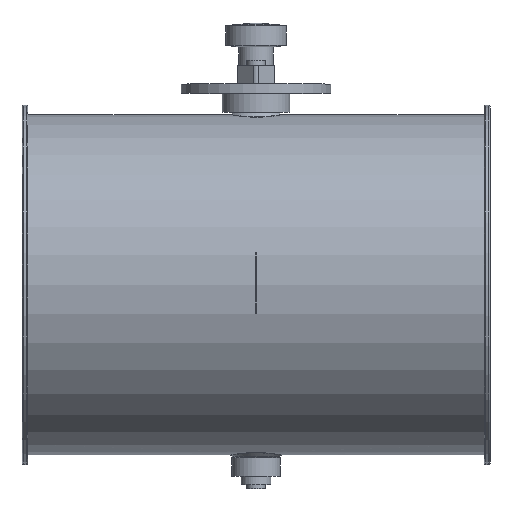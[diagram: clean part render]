
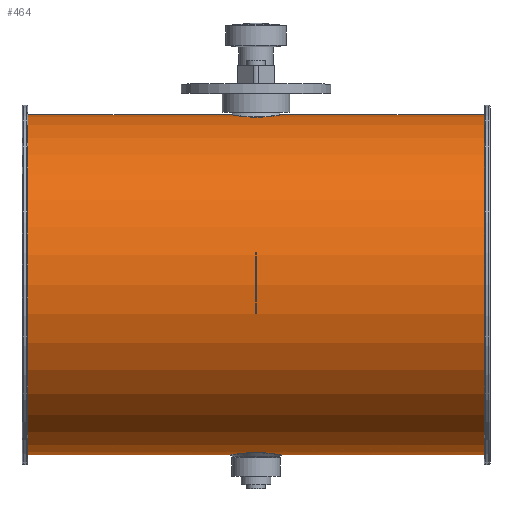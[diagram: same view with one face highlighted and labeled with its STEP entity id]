
A CAD part, top view. The second image highlights one B-rep face of the part: STEP entity #464.
In plain terms, the highlighted cylindrical face has radius 90.8 mm (diameter 181.6 mm), a full revolution.
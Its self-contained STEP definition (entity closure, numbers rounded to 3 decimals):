
#197=B_SPLINE_CURVE_WITH_KNOTS('',3,(#2054,#2055,#2056,#2057,#2058,#2059,
#2060,#2061,#2062,#2063,#2064,#2065,#2066,#2067,#2068,#2069,#2070,#2071,
#2072,#2073,#2074,#2075),.UNSPECIFIED.,.T.,.F.,(2,2,2,2,2,2,2,2,2,2,2,2,
2),(-0.063,0.,0.125,0.25,0.375,0.437,
0.5,0.625,0.75,0.875,
0.938,1.,1.125),.UNSPECIFIED.);
#198=B_SPLINE_CURVE_WITH_KNOTS('',3,(#2077,#2078,#2079,#2080,#2081,#2082,
#2083,#2084,#2085,#2086,#2087,#2088,#2089,#2090,#2091,#2092,#2093,#2094,
#2095,#2096,#2097,#2098),.UNSPECIFIED.,.T.,.F.,(2,2,2,2,2,2,2,2,2,2,2,2,
2),(-0.125,0.,0.062,0.125,0.25,0.375,
0.5,0.562,0.625,0.75,
0.875,1.,1.063),.UNSPECIFIED.);
#245=CYLINDRICAL_SURFACE('',#1447,90.8);
#315=FACE_BOUND('',#657,.T.);
#316=FACE_BOUND('',#658,.T.);
#317=FACE_BOUND('',#659,.T.);
#318=FACE_BOUND('',#660,.T.);
#464=ADVANCED_FACE('',(#315,#316,#317,#318),#245,.T.);
#657=EDGE_LOOP('',(#847));
#658=EDGE_LOOP('',(#848));
#659=EDGE_LOOP('',(#849));
#660=EDGE_LOOP('',(#850));
#847=ORIENTED_EDGE('',*,*,#1199,.T.);
#848=ORIENTED_EDGE('',*,*,#1200,.T.);
#849=ORIENTED_EDGE('',*,*,#1201,.T.);
#850=ORIENTED_EDGE('',*,*,#1202,.F.);
#1083=VERTEX_POINT('',#2053);
#1084=VERTEX_POINT('',#2076);
#1085=VERTEX_POINT('',#2099);
#1086=VERTEX_POINT('',#2101);
#1199=EDGE_CURVE('',#1083,#1083,#1331,.T.);
#1200=EDGE_CURVE('',#1084,#1084,#197,.T.);
#1201=EDGE_CURVE('',#1085,#1085,#198,.T.);
#1202=EDGE_CURVE('',#1086,#1086,#1332,.T.);
#1331=CIRCLE('',#1445,90.8);
#1332=CIRCLE('',#1446,90.8);
#1445=AXIS2_PLACEMENT_3D('',#2052,#1684,#1685);
#1446=AXIS2_PLACEMENT_3D('',#2100,#1686,#1687);
#1447=AXIS2_PLACEMENT_3D('',#2102,#1688,#1689);
#1684=DIRECTION('',(1.,0.,0.));
#1685=DIRECTION('',(0.,0.,1.));
#1686=DIRECTION('',(1.,0.,0.));
#1687=DIRECTION('',(0.,0.,1.));
#1688=DIRECTION('',(1.,0.,0.));
#1689=DIRECTION('',(0.,0.,-1.));
#2052=CARTESIAN_POINT('',(-122.,-48.3,125.));
#2053=CARTESIAN_POINT('',(-122.,-48.3,215.8));
#2054=CARTESIAN_POINT('',(-2.298,-137.806,109.715));
#2055=CARTESIAN_POINT('',(-7.848,-138.111,111.573));
#2056=CARTESIAN_POINT('',(-10.853,-138.549,114.427));
#2057=CARTESIAN_POINT('',(-14.215,-139.092,121.339));
#2058=CARTESIAN_POINT('',(-14.602,-139.175,125.457));
#2059=CARTESIAN_POINT('',(-12.646,-138.833,132.889));
#2060=CARTESIAN_POINT('',(-10.282,-138.42,136.281));
#2061=CARTESIAN_POINT('',(-5.389,-137.969,139.326));
#2062=CARTESIAN_POINT('',(-3.54,-137.852,140.003));
#2063=CARTESIAN_POINT('',(0.316,-137.77,140.486));
#2064=CARTESIAN_POINT('',(2.284,-137.806,140.286));
#2065=CARTESIAN_POINT('',(7.813,-138.108,138.445));
#2066=CARTESIAN_POINT('',(10.832,-138.546,135.61));
#2067=CARTESIAN_POINT('',(14.228,-139.094,128.638));
#2068=CARTESIAN_POINT('',(14.605,-139.176,124.548));
#2069=CARTESIAN_POINT('',(12.639,-138.832,117.092));
#2070=CARTESIAN_POINT('',(10.262,-138.417,113.7));
#2071=CARTESIAN_POINT('',(5.375,-137.968,110.669));
#2072=CARTESIAN_POINT('',(3.504,-137.851,109.99));
#2073=CARTESIAN_POINT('',(-0.316,-137.77,109.517));
#2074=CARTESIAN_POINT('',(-2.298,-137.806,109.715));
#2075=CARTESIAN_POINT('',(-7.848,-138.111,111.573));
#2076=CARTESIAN_POINT('',(-4.148,-137.908,110.334));
#2077=CARTESIAN_POINT('',(-7.848,41.511,111.573));
#2078=CARTESIAN_POINT('',(-2.298,41.206,109.715));
#2079=CARTESIAN_POINT('',(-0.332,41.17,109.516));
#2080=CARTESIAN_POINT('',(3.497,41.251,109.988));
#2081=CARTESIAN_POINT('',(5.363,41.367,110.662));
#2082=CARTESIAN_POINT('',(10.275,41.818,113.707));
#2083=CARTESIAN_POINT('',(12.645,42.233,117.093));
#2084=CARTESIAN_POINT('',(14.61,42.577,124.589));
#2085=CARTESIAN_POINT('',(14.213,42.492,128.674));
#2086=CARTESIAN_POINT('',(10.84,41.947,135.59));
#2087=CARTESIAN_POINT('',(7.832,41.51,138.429));
#2088=CARTESIAN_POINT('',(2.322,41.207,140.279));
#2089=CARTESIAN_POINT('',(0.37,41.17,140.486));
#2090=CARTESIAN_POINT('',(-3.508,41.251,140.013));
#2091=CARTESIAN_POINT('',(-5.361,41.367,139.339));
#2092=CARTESIAN_POINT('',(-10.273,41.818,136.295));
#2093=CARTESIAN_POINT('',(-12.642,42.232,132.907));
#2094=CARTESIAN_POINT('',(-14.607,42.576,125.435));
#2095=CARTESIAN_POINT('',(-14.226,42.494,121.358));
#2096=CARTESIAN_POINT('',(-10.835,41.946,114.395));
#2097=CARTESIAN_POINT('',(-7.848,41.511,111.573));
#2098=CARTESIAN_POINT('',(-2.298,41.206,109.715));
#2099=CARTESIAN_POINT('',(-4.148,41.308,110.334));
#2100=CARTESIAN_POINT('',(122.,-48.3,125.));
#2101=CARTESIAN_POINT('',(122.,-48.3,215.8));
#2102=CARTESIAN_POINT('',(-125.,-48.3,125.));
